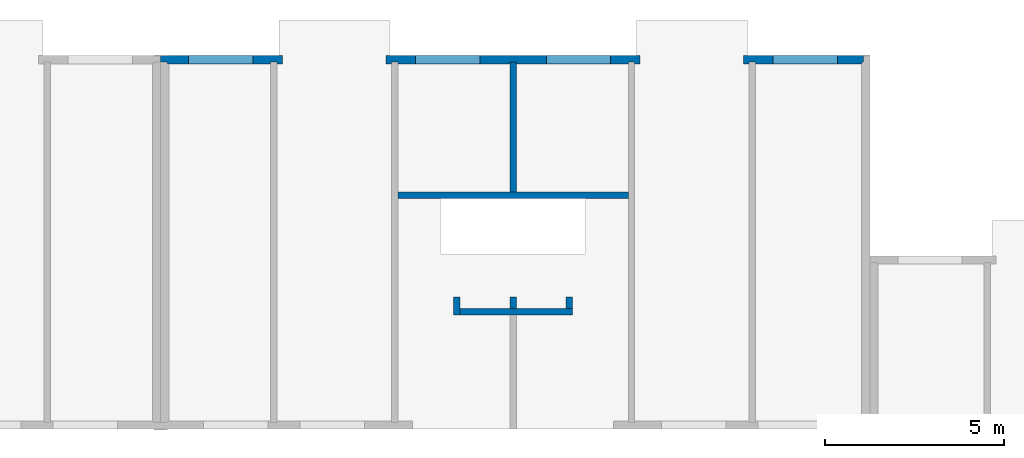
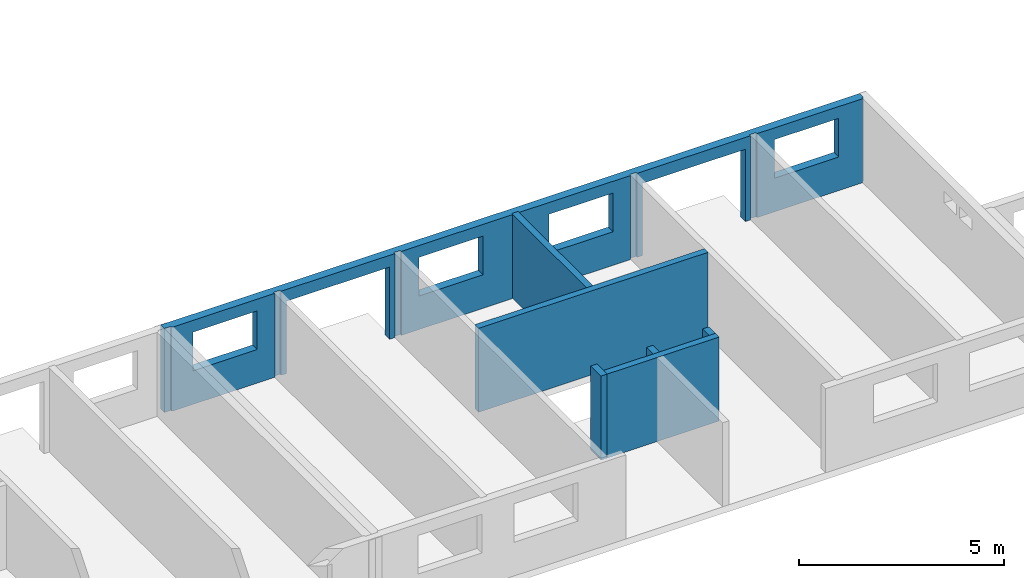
# One storey, part 5 of 9: 7 walls, 6 openings.
"""IFC2X3 building model written with IfcOpenShell, lengths in millimetres."""

import ifcopenshell
import ifcopenshell.guid

model = None  # the IFC model being written
_history = None  # IfcOwnerHistory: only IFC2X3 demands one
_inside = {}  # id of a spatial element -> (the spatial element, [elements in it])
_under = {}  # id of a project, library or spatial element -> (it, [spatial elements below it])
_declared = {}  # id of a project -> (the project, [libraries it declares])
_typed = {}  # id of a type object -> (the type object, [elements of that type])
_made_of = {}  # id of a material, layer set ... -> (it, [elements and type objects made of it])


def new_model(schema):
    """Start an empty IFC model of exactly this schema.

    Asked for "IFC4X3", IfcOpenShell would pick the latest addendum, in which some entities
    have other attributes; the version numbers below select the first issue.
    IFC2X3 requires an IfcOwnerHistory on every rooted entity: one is made here for all.
    """
    global model, _history
    if schema == "IFC4X3":
        model = ifcopenshell.file(schema_version=(4, 3, 0, 0))
    else:
        model = ifcopenshell.file(schema=schema)
    _inside.clear()
    _under.clear()
    _declared.clear()
    _typed.clear()
    _made_of.clear()
    _history = None
    if model.schema == "IFC2X3":
        org = make("IfcOrganization", Name="unknown")
        user = make(
            "IfcPersonAndOrganization",
            ThePerson=make("IfcPerson", FamilyName="unknown"),
            TheOrganization=org,
        )
        app = make(
            "IfcApplication",
            ApplicationDeveloper=org,
            Version="unknown",
            ApplicationFullName="unknown",
            ApplicationIdentifier="unknown",
        )
        _history = make(
            "IfcOwnerHistory",
            OwningUser=user,
            OwningApplication=app,
            ChangeAction="ADDED",
            CreationDate=0,
        )
    return model


def make(cls, **values):
    """One entity of the class cls with the attributes given. An attribute that is None is left unset."""
    return model.create_entity(
        cls, **{name: value for name, value in values.items() if value is not None}
    )


def entity(cls, *values):
    """Any entity or typed value of the class cls, its attributes in the order of the schema. None: left unset."""
    e = model.create_entity(cls)
    for i, value in enumerate(values):
        if value is not None:
            e[i] = value
    return e


def rooted(cls, **values):
    """An entity with a GlobalId (a new one), such as an element, a storey or a relation."""
    return make(cls, GlobalId=ifcopenshell.guid.new(), OwnerHistory=_history, **values)


def si_unit(unit_type, name, prefix=None):
    """IfcSIUnit, for example si_unit("LENGTHUNIT", "METRE", prefix="MILLI")."""
    return make("IfcSIUnit", UnitType=unit_type, Prefix=prefix, Name=name)


def converted_unit(unit_type, name, factor, base, dimensions=None, offset=None):
    """IfcConversionBasedUnit, such as the inch: factor (a typed value) times the base unit."""
    return make(
        "IfcConversionBasedUnit"
        if offset is None
        else "IfcConversionBasedUnitWithOffset",
        ConversionOffset=offset,
        Dimensions=None
        if dimensions is None
        else entity("IfcDimensionalExponents", *dimensions),
        UnitType=unit_type,
        Name=name,
        ConversionFactor=make(
            "IfcMeasureWithUnit", ValueComponent=factor, UnitComponent=base
        ),
    )


def assignment(units):
    """IfcUnitAssignment: the units of a project."""
    return None if units is None else make("IfcUnitAssignment", Units=units)


def point(xyz):
    """IfcCartesianPoint."""
    return None if xyz is None else make("IfcCartesianPoint", Coordinates=xyz)


def direction(xyz):
    """IfcDirection."""
    return None if xyz is None else make("IfcDirection", DirectionRatios=xyz)


def frame(location, z_axis=None, x_axis=None):
    """IfcAxis2Placement3D, a coordinate frame: its origin and axes. An axis left out is left unset."""
    return make(
        "IfcAxis2Placement3D",
        Location=point(location),
        Axis=direction(z_axis),
        RefDirection=direction(x_axis),
    )


def frame_2d(location, x_axis=None):
    """IfcAxis2Placement2D, a coordinate frame in the plane: its origin and x axis."""
    return make(
        "IfcAxis2Placement2D", Location=point(location), RefDirection=direction(x_axis)
    )


def origin():
    """The frame at (0, 0, 0) with its axes left unset."""
    return frame((0.0, 0.0, 0.0))


def origin_with_axes():
    """The frame at (0, 0, 0) with the z axis (0, 0, 1) and the x axis (1, 0, 0) written out."""
    return frame((0.0, 0.0, 0.0), z_axis=(0.0, 0.0, 1.0), x_axis=(1.0, 0.0, 0.0))


def place(relative_to, where):
    """IfcLocalPlacement: puts the frame where relative to a parent placement (None: the world)."""
    return make(
        "IfcLocalPlacement", PlacementRelTo=relative_to, RelativePlacement=where
    )


def context(
    kind, dimensions, precision=None, world=None, true_north=None, identifier=None
):
    """IfcGeometricRepresentationContext, for example the 3D "Model" context."""
    return make(
        "IfcGeometricRepresentationContext",
        ContextIdentifier=identifier,
        ContextType=kind,
        CoordinateSpaceDimension=dimensions,
        Precision=precision,
        WorldCoordinateSystem=world,
        TrueNorth=true_north,
    )


def subcontext(parent, identifier, kind, view, scale=None):
    """IfcGeometricRepresentationSubContext, for example "Body" below "Model"."""
    return make(
        "IfcGeometricRepresentationSubContext",
        ContextIdentifier=identifier,
        ContextType=kind,
        ParentContext=parent,
        TargetScale=scale,
        TargetView=view,
    )


def project(units=None, contexts=None):
    """IfcProject with its units and contexts."""
    return rooted(
        "IfcProject",
        Name="project",
        RepresentationContexts=contexts,
        UnitsInContext=assignment(units),
    )


def spatial(cls, under=None, at=None, **own):
    """A site, building, storey or space (cls), placed at a placement, below another one or the project."""
    s = rooted(cls, ObjectPlacement=at, **own)
    if under is not None:
        _under.setdefault(under.id(), (under, []))[1].append(s)
    return s


def polyline(points):
    """IfcPolyline through the points."""
    return make("IfcPolyline", Points=[point(p) for p in points])


def profile(cls, at=None, kind="AREA", **sizes):
    """A parametric profile (cls). Its sizes go by their IFC names, for example OverallWidth=200.0."""
    return make(cls, ProfileType=kind, Position=at, **sizes)


def rectangle(**sizes):
    """IfcRectangleProfileDef."""
    return profile("IfcRectangleProfileDef", **sizes)


def outline(outer, holes=None, kind="AREA"):
    """IfcArbitraryClosedProfileDef: a profile drawn as a closed curve; with holes, ...WithVoids."""
    if holes is None:
        return make("IfcArbitraryClosedProfileDef", ProfileType=kind, OuterCurve=outer)
    return make(
        "IfcArbitraryProfileDefWithVoids",
        ProfileType=kind,
        OuterCurve=outer,
        InnerCurves=holes,
    )


def extrude(swept, where, along, depth):
    """IfcExtrudedAreaSolid: the profile swept, set in the frame where, extruded along a direction by depth."""
    return make(
        "IfcExtrudedAreaSolid",
        SweptArea=swept,
        Position=where,
        ExtrudedDirection=direction(along),
        Depth=depth,
    )


def shape(context_of_items, identifier, shape_type, items):
    """IfcShapeRepresentation: the items that make up one representation, for example the "Body"."""
    return make(
        "IfcShapeRepresentation",
        ContextOfItems=context_of_items,
        RepresentationIdentifier=identifier,
        RepresentationType=shape_type,
        Items=items,
    )


def material(Name=None, Category=None):
    """IfcMaterial."""
    return make("IfcMaterial", Name=Name, Category=Category)


def layer(
    of_material, thickness, ventilated=None, Name=None, Category=None, Priority=None
):
    """IfcMaterialLayer: one layer of a wall or slab, of a material (None: an air gap)."""
    return make(
        "IfcMaterialLayer",
        Material=of_material,
        LayerThickness=thickness,
        IsVentilated=ventilated,
        Name=Name,
        Category=Category,
        Priority=Priority,
    )


def layer_set(layers, Name=None):
    """IfcMaterialLayerSet."""
    return make("IfcMaterialLayerSet", MaterialLayers=layers, LayerSetName=Name)


def layer_usage(for_layer_set, set_direction, sense, offset, extent=None):
    """IfcMaterialLayerSetUsage: how a layer set lies in its element."""
    return make(
        "IfcMaterialLayerSetUsage",
        ForLayerSet=for_layer_set,
        LayerSetDirection=set_direction,
        DirectionSense=sense,
        OffsetFromReferenceLine=offset,
        ReferenceExtent=extent,
    )


def made_of(thing, what):
    """Note that an element or type object is made of a material, layer set ...; save() writes the relation."""
    if what is not None:
        _made_of.setdefault(what.id(), (what, []))[1].append(thing)
    return thing


def element(
    cls,
    number,
    at=None,
    inside=None,
    cuts=None,
    type_object=None,
    material=None,
    context=None,
    identifier="Body",
    shape_type=None,
    held_by="IfcProductDefinitionShape",
    body=None,
    shapes=None,
    **own,
):
    """One element of the class cls, such as IfcWall. Its Tag is "e" and its number.

    at: its placement. inside: the storey or other place that contains it. cuts: it is an
    opening in that element (IfcRelVoidsElement). A single representation is given by context,
    identifier, shape_type and body (its items); several are given by shapes. held_by: the class
    of the entity that holds the representations. save() writes the other relations.
    """
    e = rooted(cls, Tag="e%d" % number, ObjectPlacement=at, **own)
    if body is not None:
        shapes = [shape(context, identifier, shape_type, body)]
    if shapes is not None:
        e.Representation = make(held_by, Representations=shapes)
    if inside is not None:
        _inside.setdefault(inside.id(), (inside, []))[1].append(e)
    if cuts is not None:
        rooted(
            "IfcRelVoidsElement", RelatingBuildingElement=cuts, RelatedOpeningElement=e
        )
    if type_object is not None:
        _typed.setdefault(type_object.id(), (type_object, []))[1].append(e)
    return made_of(e, material)


def aggregate(whole, parts):
    """IfcRelAggregates: a whole, such as a stair, and the parts it consists of."""
    return rooted("IfcRelAggregates", RelatingObject=whole, RelatedObjects=parts)


def save(model, path):
    """Write the relations noted so far, then the file.

    IfcRelAggregates (storeys below a building ...), IfcRelContainedInSpatialStructure (elements
    in a storey), IfcRelDefinesByType, IfcRelAssociatesMaterial and IfcRelDeclares: one each for
    every whole, place, type object, material and project.
    """
    for whole, parts in _under.values():
        aggregate(whole, parts)
    for where, things in _inside.values():
        rooted(
            "IfcRelContainedInSpatialStructure",
            RelatedElements=things,
            RelatingStructure=where,
        )
    for kind, things in _typed.values():
        rooted("IfcRelDefinesByType", RelatedObjects=things, RelatingType=kind)
    for what, things in _made_of.values():
        rooted("IfcRelAssociatesMaterial", RelatedObjects=things, RelatingMaterial=what)
    for by, libraries in _declared.values():
        rooted("IfcRelDeclares", RelatingContext=by, RelatedDefinitions=libraries)
    model.write(path)


model = new_model("IFC2X3")

# Units and contexts
model_context = context("Model", 3, precision=1e-05, world=origin())
plan_context = context("Plan", 3, precision=1e-05, world=origin())
body_context = subcontext(model_context, "Body", "Model", "MODEL_VIEW")
ifc_project = project(units=[si_unit("LENGTHUNIT", "METRE", prefix="MILLI"), converted_unit("PLANEANGLEUNIT", "DEGREE", entity("IfcPlaneAngleMeasure", 0.0174532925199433), si_unit("PLANEANGLEUNIT", "RADIAN"), dimensions=[0, 0, 0, 0, 0, 0, 0]), si_unit("AREAUNIT", "SQUARE_METRE"), si_unit("VOLUMEUNIT", "CUBIC_METRE")], contexts=[model_context, plan_context])

# Building, storey
building_placement = place(None, origin())
building = spatial("IfcBuilding", under=ifc_project, at=building_placement, Name="Bâtiment", CompositionType="ELEMENT")
storey_placement = place(building_placement, frame((0.0, 0.0, 5400.0), z_axis=(0.0, 0.0, 1.0), x_axis=(1.0, 0.0, 0.0)))
storey = spatial("IfcBuildingStorey", under=building, at=storey_placement, Name="r+2", CompositionType="ELEMENT", Elevation=5400.0)

# Wall, openings
ifc_material_1 = material(Name="moellons")
ifc_layer_1 = layer(ifc_material_1, 179.9999999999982)
ifc_material_2 = material(Name="briquettes")
ifc_layer_2 = layer(ifc_material_2, 40.0)
ifc_material_3 = material(Name="enduit platre")
ifc_layer_3 = layer(ifc_material_3, 10.0)
ifc_layer_set_1 = layer_set([ifc_layer_1, ifc_layer_2, ifc_layer_3])
ifc_layer_usage_1 = layer_usage(ifc_layer_set_1, "AXIS2", "POSITIVE", 0.0)
wall_1_placement = place(storey_placement, frame((39519.99999999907, 10470.07776548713, 0.0), z_axis=(0.0, 0.0, 1.0), x_axis=(-1.0, 9.247531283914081e-17, 0.0)))
wall_1 = element("IfcWallStandardCase", 1, at=wall_1_placement, inside=storey, material=ifc_layer_usage_1, context=body_context, shape_type="SweptSolid", body=[
    extrude(outline(polyline([(16590.00000000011, 179.9999999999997), (16410.00000000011, 179.9999999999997), (16410.00000000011, 229.9999999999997), (13209.99993823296, 229.9999999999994), (13209.99993823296, 179.9999999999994), (13029.99993823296, 179.9999999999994), (13029.99993823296, 229.9999999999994), (9894.999999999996, 229.9999999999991), (9894.999999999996, 179.9999999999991), (9714.999999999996, 179.9999999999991), (9714.999999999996, 229.9999999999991), (6580.0, 229.9999999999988), (6580.0, 180.0000000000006), (6400.0, 180.0000000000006), (6400.0, 229.9999999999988), (3199.999999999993, 230.0000000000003), (3199.999999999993, 180.0000000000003), (3019.999999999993, 180.0000000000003), (3019.999999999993, 230.0000000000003), (49.99999999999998, 230.0), (49.99999999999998, 220.0), (39.99999999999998, 220.0), (39.99999999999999, 180.0), (-1.664555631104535e-14, 180.0), (0.0, 0.0), (19669.99999999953, 0.0), (19669.99999999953, 180.0), (19489.99999999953, 180.0), (19489.99999999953, 220.0), (19449.99999999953, 220.0), (19449.99999999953, 230.0), (16590.00000000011, 229.9999999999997), (16590.00000000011, 179.9999999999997)])), origin_with_axes(), (0.0, 0.0, 1.0), 2500.0),
])
opening_1_placement = place(wall_1_placement, frame((17084.99999999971, -1.818989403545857e-12, 1000.0), z_axis=(0.0, 1.0, 0.0), x_axis=(0.0, 0.0, 1.0)))
element("IfcOpeningElement", 2, at=opening_1_placement, cuts=wall_1, Name="Baie de fenêtre", ObjectType="Opening", context=body_context, shape_type="SweptSolid", body=[
    extrude(rectangle(XDim=1150.0, YDim=1800.0, at=frame_2d((575.0, 900.0), x_axis=(1.0, 0.0))), origin_with_axes(), (0.0, 0.0, 1.0), 230.0),
])
opening_2_placement = place(wall_1_placement, frame((10735.00000000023, -1.818989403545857e-12, 1000.0), z_axis=(0.0, 1.0, 0.0), x_axis=(0.0, 0.0, 1.0)))
element("IfcOpeningElement", 3, at=opening_2_placement, cuts=wall_1, Name="Baie de fenêtre", ObjectType="Opening", context=body_context, shape_type="SweptSolid", body=[
    extrude(rectangle(XDim=1150.0, YDim=1800.0, at=frame_2d((575.0, 900.0), x_axis=(1.0, 0.0))), origin_with_axes(), (0.0, 0.0, 1.0), 230.0),
])
opening_3_placement = place(wall_1_placement, frame((7074.999999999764, 0.0, 1000.0), z_axis=(0.0, 1.0, 0.0), x_axis=(0.0, 0.0, 1.0)))
element("IfcOpeningElement", 4, at=opening_3_placement, cuts=wall_1, Name="Baie de fenêtre", ObjectType="Opening", context=body_context, shape_type="SweptSolid", body=[
    extrude(rectangle(XDim=1150.0, YDim=1800.0, at=frame_2d((575.0, 900.0), x_axis=(1.0, 0.0))), origin_with_axes(), (0.0, 0.0, 1.0), 230.0),
])
opening_4_placement = place(wall_1_placement, frame((725.0000000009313, 0.0, 1000.0), z_axis=(0.0, 1.0, 0.0), x_axis=(0.0, 0.0, 1.0)))
element("IfcOpeningElement", 5, at=opening_4_placement, cuts=wall_1, Name="Baie de fenêtre", ObjectType="Opening", context=body_context, shape_type="SweptSolid", body=[
    extrude(rectangle(XDim=1150.0, YDim=1800.0, at=frame_2d((575.0, 900.0), x_axis=(1.0, 0.0))), origin_with_axes(), (0.0, 0.0, 1.0), 230.0),
])
opening_5_placement = place(wall_1_placement, frame((13359.96872355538, -1.818989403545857e-12, 0.0), z_axis=(0.0, 1.0, 0.0), x_axis=(0.0, 0.0, 1.0)))
element("IfcOpeningElement", 6, at=opening_5_placement, cuts=wall_1, Name="Baie de porte", ObjectType="Opening", context=body_context, shape_type="SweptSolid", body=[
    extrude(rectangle(XDim=2150.0, YDim=2900.0, at=frame_2d((1075.0, 1450.0), x_axis=(1.0, 0.0))), origin_with_axes(), (0.0, 0.0, 1.0), 230.0),
])
opening_6_placement = place(wall_1_placement, frame((3350.370189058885, 0.0, 0.0), z_axis=(0.0, 1.0, 0.0), x_axis=(0.0, 0.0, 1.0)))
element("IfcOpeningElement", 7, at=opening_6_placement, cuts=wall_1, Name="Baie de porte", ObjectType="Opening", context=body_context, shape_type="SweptSolid", body=[
    extrude(rectangle(XDim=2150.0, YDim=2900.0, at=frame_2d((1075.0, 1450.0), x_axis=(1.0, 0.0))), origin_with_axes(), (0.0, 0.0, 1.0), 230.0),
])

# Walls
ifc_material_4 = material(Name="moellons")
ifc_layer_4 = layer(ifc_material_4, 180.0)
ifc_layer_set_2 = layer_set([ifc_layer_4])
ifc_layer_usage_2 = layer_usage(ifc_layer_set_2, "AXIS2", "POSITIVE", 0.0)
wall_2_placement = place(storey_placement, frame((29804.99999999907, 20.03893477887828, 0.0), z_axis=(0.0, 0.0, 1.0), x_axis=(0.0, 1.0, 0.0)))
element("IfcWallStandardCase", 8, at=wall_2_placement, inside=storey, material=ifc_layer_usage_2, context=body_context, shape_type="SweptSolid", body=[
    extrude(outline(polyline([(3380.038830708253, 0.0), (3700.038830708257, 0.0), (3700.038830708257, 180.0), (3380.038830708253, 180.0), (3380.038830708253, 0.0)])), origin_with_axes(), (0.0, 0.0, 1.0), 2500.0),
])
ifc_material_5 = material(Name="moellons")
ifc_layer_5 = layer(ifc_material_5, 180.0)
ifc_layer_set_3 = layer_set([ifc_layer_5])
ifc_layer_usage_3 = layer_usage(ifc_layer_set_3, "AXIS2", "POSITIVE", 0.0)
wall_3_placement = place(storey_placement, frame((29804.99999999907, 6650.077765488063, 0.0), z_axis=(0.0, 0.0, 1.0), x_axis=(0.0, 1.0, 0.0)))
element("IfcWallStandardCase", 9, at=wall_3_placement, inside=storey, material=ifc_layer_usage_3, context=body_context, shape_type="SweptSolid", body=[
    extrude(rectangle(XDim=3639.999999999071, YDim=180.0, at=frame_2d((1819.999999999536, 90.0), x_axis=(1.0, 0.0))), origin_with_axes(), (0.0, 0.0, 1.0), 2500.0),
])
ifc_material_6 = material(Name="moellons")
ifc_layer_6 = layer(ifc_material_6, 180.0)
ifc_layer_set_4 = layer_set([ifc_layer_6])
ifc_layer_usage_4 = layer_usage(ifc_layer_set_4, "AXIS2", "POSITIVE", 0.0)
wall_4_placement = place(storey_placement, frame((32939.9995415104, 6650.077765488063, 0.0), z_axis=(0.0, 0.0, 1.0), x_axis=(-1.0, 0.0, 0.0)))
element("IfcWallStandardCase", 10, at=wall_4_placement, inside=storey, material=ifc_layer_usage_4, context=body_context, shape_type="SweptSolid", body=[
    extrude(rectangle(XDim=6449.999479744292, YDim=180.0, at=frame_2d((3224.999739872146, 90.0), x_axis=(1.0, 0.0))), origin_with_axes(), (0.0, 0.0, 1.0), 2500.0),
])
ifc_material_7 = material(Name="moellons")
ifc_layer_7 = layer(ifc_material_7, 180.0)
ifc_layer_set_5 = layer_set([ifc_layer_7])
ifc_layer_usage_5 = layer_usage(ifc_layer_set_5, "AXIS2", "POSITIVE", 0.0)
wall_5_placement = place(storey_placement, frame((28229.99951490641, 3220.077765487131, 0.0), z_axis=(0.0, 0.0, 1.0), x_axis=(0.0, 1.0, 0.0)))
element("IfcWallStandardCase", 11, at=wall_5_placement, inside=storey, material=ifc_layer_usage_5, context=body_context, shape_type="SweptSolid", body=[
    extrude(rectangle(XDim=500.0, YDim=180.0, at=frame_2d((250.0, 90.0), x_axis=(1.0, 0.0))), origin_with_axes(), (0.0, 0.0, 1.0), 2500.0),
])
ifc_material_8 = material(Name="moellons")
ifc_layer_8 = layer(ifc_material_8, 180.0)
ifc_layer_set_6 = layer_set([ifc_layer_8])
ifc_layer_usage_6 = layer_usage(ifc_layer_set_6, "AXIS2", "POSITIVE", 0.0)
wall_6_placement = place(storey_placement, frame((31379.99951490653, 3400.077765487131, 0.0), z_axis=(0.0, 0.0, 1.0), x_axis=(-1.0, 0.0, 0.0)))
element("IfcWallStandardCase", 12, at=wall_6_placement, inside=storey, material=ifc_layer_usage_6, context=body_context, shape_type="SweptSolid", body=[
    extrude(rectangle(XDim=3150.000000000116, YDim=180.0, at=frame_2d((1575.000000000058, 90.0), x_axis=(1.0, 0.0))), origin_with_axes(), (0.0, 0.0, 1.0), 2500.0),
])
ifc_material_9 = material(Name="moellons")
ifc_layer_9 = layer(ifc_material_9, 180.0)
ifc_layer_set_7 = layer_set([ifc_layer_9])
ifc_layer_usage_7 = layer_usage(ifc_layer_set_7, "AXIS2", "POSITIVE", 0.0)
wall_7_placement = place(storey_placement, frame((31199.99951490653, 3720.077765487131, 0.0), z_axis=(0.0, 0.0, 1.0), x_axis=(0.0, -1.0, 0.0)))
element("IfcWallStandardCase", 13, at=wall_7_placement, inside=storey, material=ifc_layer_usage_7, context=body_context, shape_type="SweptSolid", body=[
    extrude(rectangle(XDim=320.0, YDim=180.0, at=frame_2d((160.0, 90.0), x_axis=(1.0, 0.0))), origin_with_axes(), (0.0, 0.0, 1.0), 2500.0),
])

save(model, "model.ifc")
